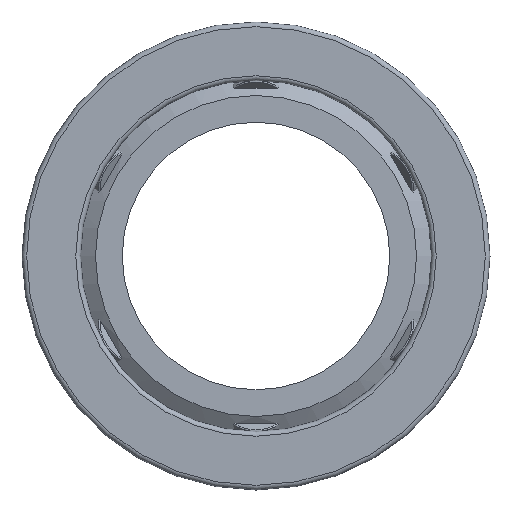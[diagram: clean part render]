
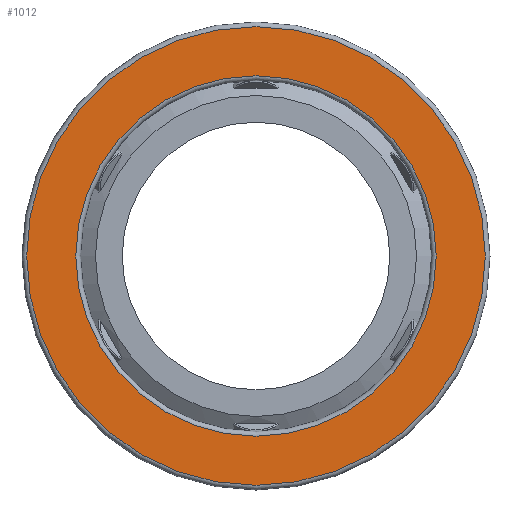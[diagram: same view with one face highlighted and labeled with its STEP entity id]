
A CAD part, front view. The second image highlights one B-rep face of the part: STEP entity #1012.
In plain terms, the highlighted planar face has unit normal (0, -1, 0).
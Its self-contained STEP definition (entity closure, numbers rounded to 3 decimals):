
#217=FACE_BOUND('',#302,.T.);
#225=PLANE('',#1212);
#239=FACE_OUTER_BOUND('',#301,.T.);
#301=EDGE_LOOP('',(#706));
#302=EDGE_LOOP('',(#707));
#370=CIRCLE('',#1208,80.85);
#374=CIRCLE('',#1213,102.9);
#451=VERTEX_POINT('',#1699);
#454=VERTEX_POINT('',#1707);
#550=EDGE_CURVE('',#451,#451,#370,.T.);
#554=EDGE_CURVE('',#454,#454,#374,.T.);
#706=ORIENTED_EDGE('',*,*,#554,.F.);
#707=ORIENTED_EDGE('',*,*,#550,.F.);
#1012=ADVANCED_FACE('',(#239,#217),#225,.T.);
#1208=AXIS2_PLACEMENT_3D('',#1700,#1368,#1369);
#1212=AXIS2_PLACEMENT_3D('',#1706,#1376,#1377);
#1213=AXIS2_PLACEMENT_3D('',#1708,#1378,#1379);
#1368=DIRECTION('center_axis',(0.,-1.,0.));
#1369=DIRECTION('ref_axis',(1.,0.,0.));
#1376=DIRECTION('center_axis',(0.,-1.,0.));
#1377=DIRECTION('ref_axis',(0.,0.,-1.));
#1378=DIRECTION('center_axis',(0.,1.,0.));
#1379=DIRECTION('ref_axis',(1.,0.,0.));
#1699=CARTESIAN_POINT('',(0.,0.,-80.85));
#1700=CARTESIAN_POINT('Origin',(0.,0.,
0.));
#1706=CARTESIAN_POINT('Origin',(-91.875,0.,0.));
#1707=CARTESIAN_POINT('',(0.,0.,-102.9));
#1708=CARTESIAN_POINT('Origin',(0.,0.,
0.));
